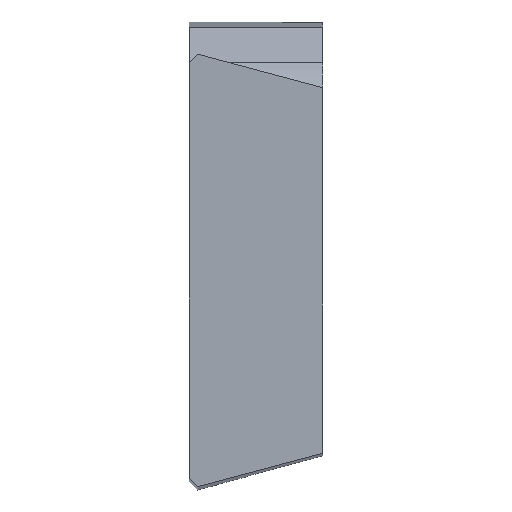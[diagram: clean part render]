
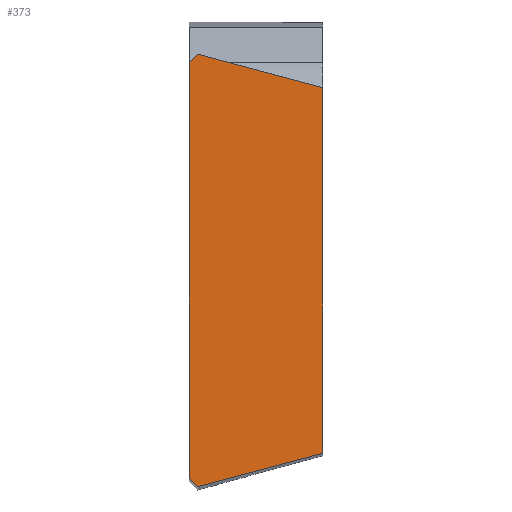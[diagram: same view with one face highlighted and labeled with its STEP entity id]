
A CAD part, top view. The second image highlights one B-rep face of the part: STEP entity #373.
In plain terms, the highlighted planar face has unit normal (0, 0, 1).
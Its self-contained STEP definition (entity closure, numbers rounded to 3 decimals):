
#330=AXIS2_PLACEMENT_3D('Plane Axis2P3D',#327,#328,#329) ;
#296=CARTESIAN_POINT('Vertex',(0.,0.634,0.)) ;
#312=CARTESIAN_POINT('Vertex',(0.5,0.134,0.)) ;
#315=CARTESIAN_POINT('Line Origine',(0.25,0.384,0.)) ;
#327=CARTESIAN_POINT('Axis2P3D Location',(0.8,26.134,0.)) ;
#332=CARTESIAN_POINT('Line Origine',(0.,13.,0.)) ;
#336=CARTESIAN_POINT('Vertex',(0.,25.366,0.)) ;
#339=CARTESIAN_POINT('Line Origine',(4.22,1.131,0.)) ;
#343=CARTESIAN_POINT('Vertex',(7.94,2.128,0.)) ;
#346=CARTESIAN_POINT('Line Origine',(7.94,13.,0.)) ;
#350=CARTESIAN_POINT('Vertex',(7.94,23.872,0.)) ;
#353=CARTESIAN_POINT('Line Origine',(4.22,24.869,0.)) ;
#357=CARTESIAN_POINT('Vertex',(0.5,25.866,0.)) ;
#360=CARTESIAN_POINT('Line Origine',(0.25,25.616,0.)) ;
#316=DIRECTION('Vector Direction',(-0.707,0.707,0.)) ;
#328=DIRECTION('Axis2P3D Direction',(-0.,0.,1.)) ;
#329=DIRECTION('Axis2P3D XDirection',(0.,-1.,0.)) ;
#333=DIRECTION('Vector Direction',(0.,1.,0.)) ;
#340=DIRECTION('Vector Direction',(0.966,0.259,0.)) ;
#347=DIRECTION('Vector Direction',(0.,1.,0.)) ;
#354=DIRECTION('Vector Direction',(0.966,-0.259,0.)) ;
#361=DIRECTION('Vector Direction',(0.707,0.707,0.)) ;
#317=VECTOR('Line Direction',#316,1.) ;
#334=VECTOR('Line Direction',#333,1.) ;
#341=VECTOR('Line Direction',#340,1.) ;
#348=VECTOR('Line Direction',#347,1.) ;
#355=VECTOR('Line Direction',#354,1.) ;
#362=VECTOR('Line Direction',#361,1.) ;
#366=ORIENTED_EDGE('',*,*,#338,.F.) ;
#367=ORIENTED_EDGE('',*,*,#319,.F.) ;
#368=ORIENTED_EDGE('',*,*,#345,.T.) ;
#369=ORIENTED_EDGE('',*,*,#352,.T.) ;
#370=ORIENTED_EDGE('',*,*,#359,.F.) ;
#371=ORIENTED_EDGE('',*,*,#364,.F.) ;
#373=ADVANCED_FACE('NO_CUT',(#372),#331,.T.) ;
#319=EDGE_CURVE('',#313,#297,#318,.T.) ;
#338=EDGE_CURVE('',#297,#337,#335,.T.) ;
#345=EDGE_CURVE('',#313,#344,#342,.T.) ;
#352=EDGE_CURVE('',#344,#351,#349,.T.) ;
#359=EDGE_CURVE('',#358,#351,#356,.T.) ;
#364=EDGE_CURVE('',#337,#358,#363,.T.) ;
#365=EDGE_LOOP('',(#366,#367,#368,#369,#370,#371)) ;
#372=FACE_OUTER_BOUND('',#365,.T.) ;
#318=LINE('Line',#315,#317) ;
#335=LINE('Line',#332,#334) ;
#342=LINE('Line',#339,#341) ;
#349=LINE('Line',#346,#348) ;
#356=LINE('Line',#353,#355) ;
#363=LINE('Line',#360,#362) ;
#331=PLANE('',#330) ;
#297=VERTEX_POINT('',#296) ;
#313=VERTEX_POINT('',#312) ;
#337=VERTEX_POINT('',#336) ;
#344=VERTEX_POINT('',#343) ;
#351=VERTEX_POINT('',#350) ;
#358=VERTEX_POINT('',#357) ;
